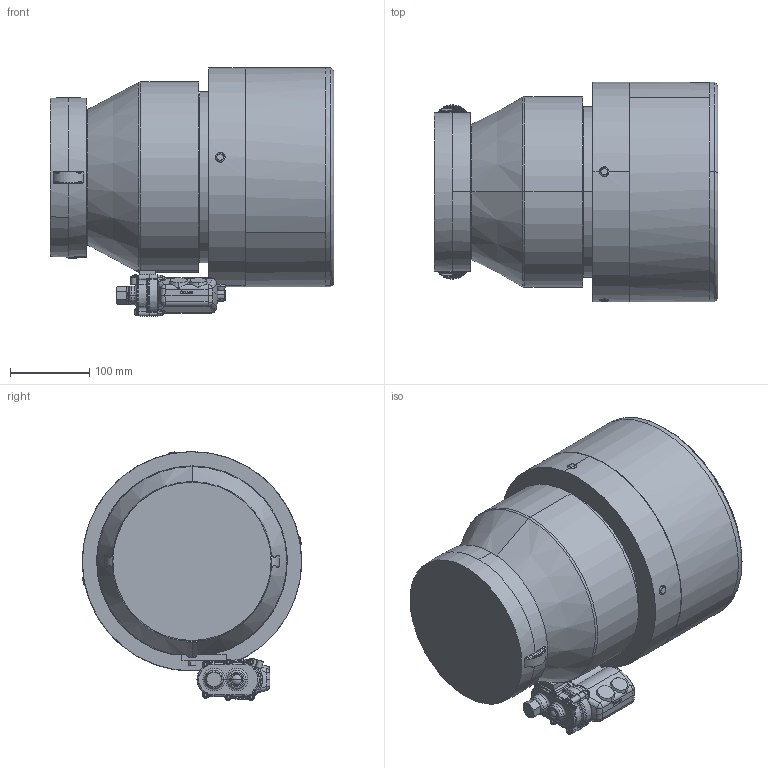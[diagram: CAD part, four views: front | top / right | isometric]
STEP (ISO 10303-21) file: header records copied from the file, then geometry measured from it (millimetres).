
FILE_DESCRIPTION (( 'STEP AP214' ), '1' );
FILE_NAME ('CM-5000E_04-20-17.STEP', '2017-04-20T20:38:19', ( 'eb' ), ( '' ), 'SwSTEP 2.0', 'SolidWorks 2016', '' );
FILE_SCHEMA (( 'AUTOMOTIVE_DESIGN' ));
Length unit declared in the file: inch
Products named in the file (1): CM-5000E_04-20-17
Bounding box: 358.87 x 277.26 x 314.35 mm (x, y, z)
Volume: 17432095.5 mm3; surface area: 454755 mm2
Topology: 1 solids, 1 shells, 742 faces, 1856 edges, 1128 vertices
Faces by surface type: plane 197, bspline 175, cylinder 129, cone 113, torus 97, sphere 31
Entity records: 34972 total; most frequent: CARTESIAN_POINT 12038, ORIENTED_EDGE 3686, DIRECTION 3185, EDGE_CURVE 1843, AXIS2_PLACEMENT_3D 1319, VERTEX_POINT 1128, EDGE_LOOP 773, CIRCLE 751
